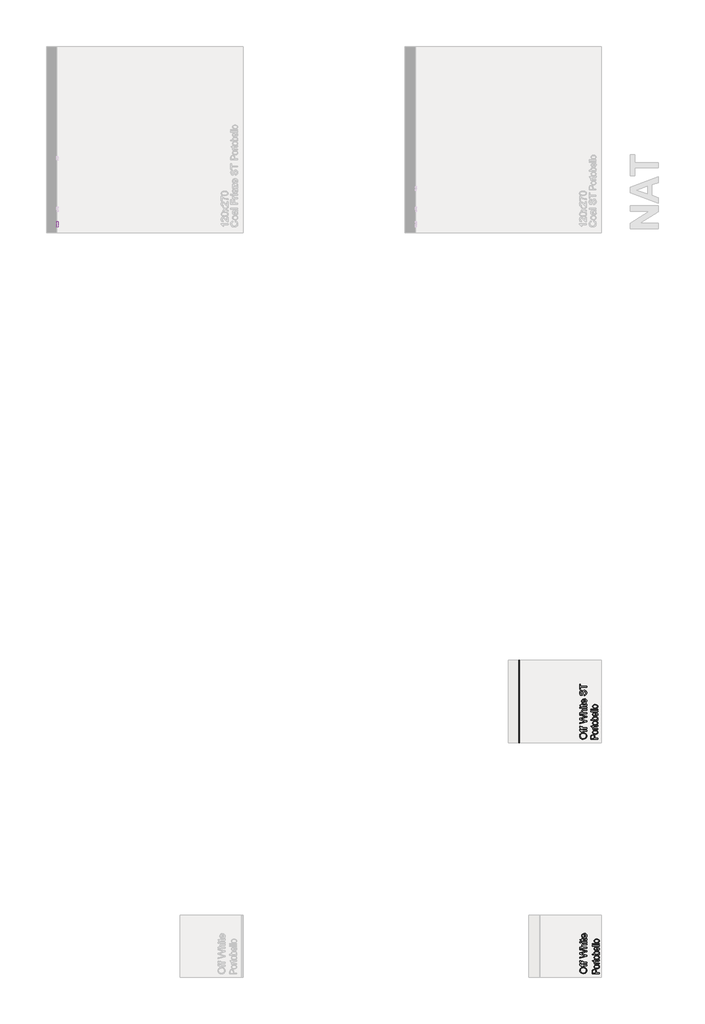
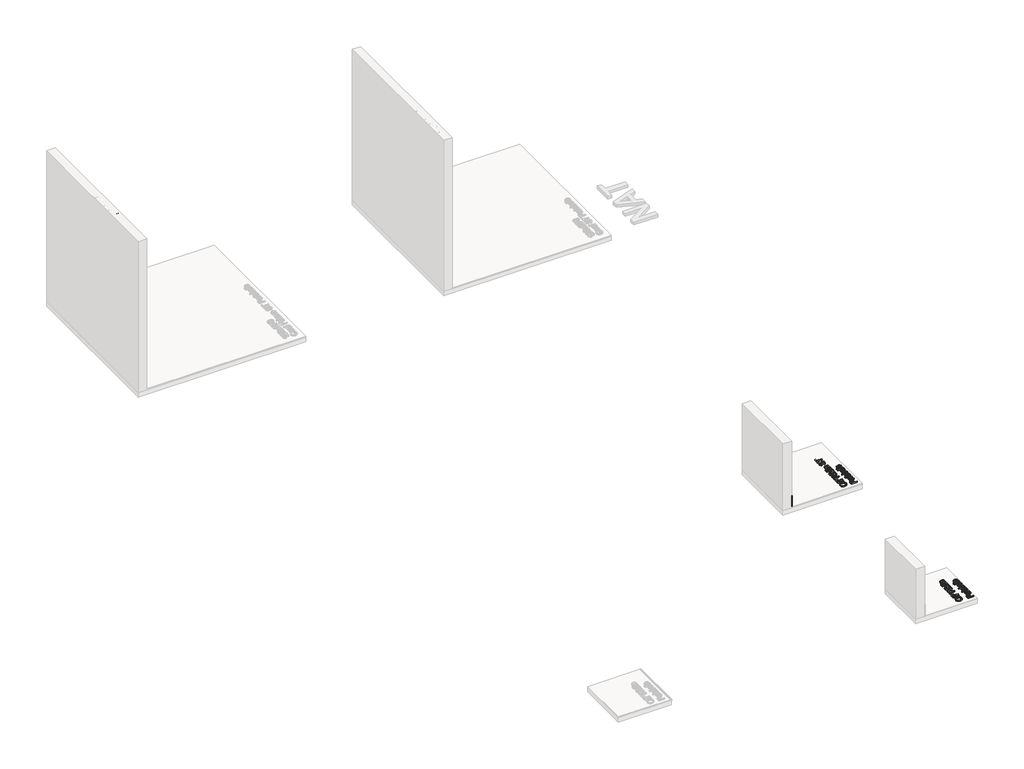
# One storey, part 16 of 19: 6 proxies.
"""IFC4 building model written with IfcOpenShell, lengths in millimetres."""

from ifc_helpers import new_model, si_unit, frame, origin, place, context, project, spatial, polyline, outline, extrude, element, save
from ifc_brep_helpers import plane_surface, extruded_surface, spline_curve, advanced_brep

model = new_model("IFC4")

# Units and contexts
model_context = context("Model", 3, world=origin())
ifc_project = project(units=[si_unit("LENGTHUNIT", "METRE", prefix="MILLI")], contexts=[model_context])

# Site, building, storey
site = spatial("IfcSite", under=ifc_project)
building = spatial("IfcBuilding", under=site)
storey = spatial("IfcBuildingStorey", under=building, Name="PORTOBELLO - SHOWROOM", Elevation=0.0)

# Proxies
placement = place(None, origin())
element("IfcBuildingElementProxy", 1, Name="RODAPE KALKS OFF WHITE ST 20X120 NAT RET", ObjectType="RODAPE KALKS OFF WHITE ST 20X120 NAT RET", at=placement, inside=storey, context=model_context, shape_type="AdvancedBrep", body=[
    advanced_brep(
    [(10405.7966975, 18603.6967801, 217.0), (10405.7966975, 18603.6967801, 17.0), (10414.7966975, 18603.6967801, 17.0), (10414.7966975, 18603.6967801, 208.0), (10405.7966975, 19803.6967801, 217.0), (10414.7966975, 19803.6967801, 208.0), (10414.7966975, 19803.6967801, 17.0), (10405.7966975, 19803.6967801, 17.0)],
    [
        (0, 1),
        (1, 2),
        (2, 3),
        (3, 0, spline_curve(3, [(10414.7966975, 18603.6967801, 208.0), (10414.7966975, 18603.6967801, 214.0), (10411.7966975, 18603.6967801, 217.0), (10405.7966975, 18603.6967801, 217.0)], [4, 4], [0.0, 0.029527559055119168])),
        (4, 5, spline_curve(3, [(10405.7966975, 19803.6967801, 217.0), (10411.7966975, 19803.6967801, 217.0), (10414.7966975, 19803.6967801, 214.0), (10414.7966975, 19803.6967801, 208.0)], [4, 4], [0.0, 0.029527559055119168])),
        (5, 6),
        (6, 7),
        (7, 4),
        (0, 4),
        (7, 1),
        (6, 2),
        (5, 3),
    ],
    [
        plane_surface(frame((10205.7966975, 18603.6967801, 17.0), z_axis=(0.0, -1.0, 0.0), x_axis=(0.0, 0.0, 1.0))),
        plane_surface(frame((10205.7966975, 19803.6967801, 17.0), z_axis=(0.0, 1.0, 0.0), x_axis=(0.0, 0.0, 1.0))),
        plane_surface(frame((10405.7966975, 18603.6967801, 217.0), z_axis=(-1.0, 0.0, 0.0), x_axis=(0.0, 1.0, 0.0))),
        plane_surface(frame((10405.7966975, 18603.6967801, 17.0), z_axis=(0.0, 0.0, -1.0), x_axis=(0.0, 1.0, 0.0))),
        plane_surface(frame((10414.7966975, 18603.6967801, 17.0), z_axis=(1.0, 0.0, 0.0), x_axis=(0.0, 1.0, 0.0))),
        extruded_surface(spline_curve(3, [(10414.7966975, 19803.6967801, 208.0), (10414.7966975, 19803.6967801, 214.0), (10411.7966975, 19803.6967801, 217.0), (10405.7966975, 19803.6967801, 217.0)], [4, 4], [0.0, 0.029527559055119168]), (0.0, -1200.0, 0.0), 1200.0),
    ],
    [
        (0, [[1, 2, 3, 4]]),
        (1, [[5, 6, 7, 8]]),
        (2, [[-1, 9, -8, 10]]),
        (3, [[-2, -10, -7, 11]]),
        (4, [[-3, -11, -6, 12]]),
        (5, [[-4, -12, -5, -9]]),
    ],
),
])
element("IfcBuildingElementProxy", 2, Name="10mm Arial", ObjectType="10mm Arial", at=placement, inside=storey, context=model_context, shape_type="SweptSolid", body=[
    extrude(outline(polyline([(26157.6221127, 2551.8986693), (26170.1791514, 2548.6613078), (26164.38501, 2534.0288014), (26155.2921934, 2523.3387638), (26143.3482912, 2516.7996613), (26129.0008934, 2514.6199605), (26114.4358321, 2516.2692981), (26102.869009, 2521.2173109), (26094.003053, 2529.2923207), (26087.5405926, 2540.3226492), (26082.27988, 2567.1780349), (26083.7667364, 2581.8258696), (26088.2273056, 2594.4748789), (26095.4285957, 2604.7234582), (26105.1376147, 2612.1700029), (26116.6523211, 2616.7041485), (26129.2706736, 2618.2155303), (26143.0386572, 2616.2596244), (26154.4215393, 2610.3919066), (26163.0637005, 2600.9741275), (26168.6095216, 2588.3680378), (26156.0524828, 2585.3759309), (26145.7517869, 2600.814712), (26128.7801642, 2605.6584916), (26109.1352657, 2600.2874144), (26098.0374922, 2585.8664402), (26094.8369188, 2567.2025603), (26098.6261034, 2545.571099), (26110.4228527, 2531.7509987), (26127.7500947, 2527.1769993), (26138.2316658, 2528.7343664), (26146.9657975, 2533.4064677), (26153.5600823, 2541.1442523), (26157.6221127, 2551.8986693)])), frame((3705.7966975, 0.0, 0.0), z_axis=(1.0, 0.0, 0.0), x_axis=(0.0, 1.0, 0.0)), (0.0, 0.0, 1.0), 20.0),
    extrude(outline(polyline([(26182.7361902, 2553.0758917), (26185.4523856, 2570.8629862), (26193.6009718, 2583.3648427), (26203.6686757, 2589.4900779), (26215.7229424, 2591.531823), (26228.9145776, 2589.0455538), (26239.4513311, 2581.5867464), (26246.3583156, 2569.7440118), (26248.6606437, 2554.1059613), (26244.5894163, 2531.7632615), (26232.7313533, 2519.1203836), (26215.7229424, 2514.6199605), (26202.3718917, 2517.0970326), (26191.8474009, 2524.5282489), (26185.0139929, 2536.6193038), (26182.7361902, 2553.0758917)]), holes=[polyline([(26195.293229, 2553.1004172), (26196.7463628, 2541.7359292), (26201.1057645, 2533.6394596), (26207.6663267, 2528.7926144), (26215.7229424, 2527.1769993), (26223.7427699, 2528.8018114), (26230.2910694, 2533.6762478), (26234.6504711, 2541.8800163), (26236.103605, 2553.4928247), (26234.641274, 2564.5262188), (26230.2542812, 2572.5123238), (26223.6967847, 2577.3591691), (26215.7229424, 2578.9747842), (26207.6663267, 2577.3653005), (26201.1057645, 2572.5368493), (26196.7463628, 2564.4587738), (26195.293229, 2553.1004172)])]), frame((3705.7966975, 0.0, 0.0), z_axis=(1.0, 0.0, 0.0), x_axis=(0.0, 1.0, 0.0)), (0.0, 0.0, 1.0), 20.0),
    extrude(outline(polyline([(26309.8762077, 2525.6073694), (26297.6993137, 2517.0970326), (26284.2470954, 2514.6199605), (26273.7532615, 2516.1098826), (26266.0124112, 2520.5796488), (26261.2391423, 2527.3670716), (26259.6480527, 2535.8099634), (26262.0515484, 2545.7427773), (26268.3668559, 2552.9532644), (26277.1592356, 2557.0735427), (26288.0240172, 2558.9620036), (26309.8026313, 2563.2784857), (26309.8762077, 2566.0743889), (26306.418117, 2575.3450152), (26292.536703, 2578.9747842), (26279.8325115, 2576.5590258), (26273.7747213, 2567.9873753), (26261.2176825, 2569.5570051), (26266.6500733, 2581.8197383), (26277.5884313, 2589.0056999), (26294.1553838, 2591.531823), (26309.3734357, 2589.3000055), (26317.9696116, 2583.6959365), (26321.8201098, 2575.1733369), (26322.4332465, 2564.185928), (26322.4332465, 2548.5632059), (26323.0709086, 2526.7478036), (26325.5725062, 2516.1895903), (26313.0154674, 2516.1895903), (26309.8762077, 2525.6073694)]), holes=[polyline([(26309.8762077, 2550.721447), (26289.6181725, 2546.8709487), (26278.8147046, 2544.835335), (26273.9218741, 2541.5243971), (26272.2050914, 2536.6928802), (26275.945225, 2529.899326), (26286.9203712, 2527.1769993), (26299.6245628, 2530.1813689), (26307.8160686, 2537.4531697), (26309.8026313, 2547.1652543), (26309.8762077, 2550.721447)])]), frame((3705.7966975, 0.0, 0.0), z_axis=(1.0, 0.0, 0.0), x_axis=(0.0, 1.0, 0.0)), (0.0, 0.0, 1.0), 20.0),
    extrude(outline(polyline([(3725.7966975, 26352.2562136), (3725.7966975, 26339.6991748), (3705.7966975, 26339.6991748), (3705.7966975, 26352.2562136), (3725.7966975, 26352.2562136)])), frame((0.0, 0.0, 2516.1895903), z_axis=(0.0, 0.0, 1.0), x_axis=(1.0, 0.0, 0.0)), (0.0, 0.0, 1.0), 100.4563101),
    extrude(outline(polyline([(26411.9021477, 2516.1895903), (26411.9021477, 2616.6459005), (26479.3962311, 2616.6459005), (26479.3962311, 2604.0888617), (26424.4591865, 2604.0888617), (26424.4591865, 2574.2658946), (26471.5480819, 2574.2658946), (26471.5480819, 2561.7088559), (26424.4591865, 2561.7088559), (26424.4591865, 2516.1895903), (26411.9021477, 2516.1895903)])), frame((3705.7966975, 0.0, 0.0), z_axis=(1.0, 0.0, 0.0), x_axis=(0.0, 1.0, 0.0)), (0.0, 0.0, 1.0), 20.0),
    extrude(outline(polyline([(26495.0925296, 2516.1895903), (26495.0925296, 2589.9621931), (26506.0799385, 2589.9621931), (26506.0799385, 2579.0483606), (26513.8790368, 2589.1038018), (26521.727186, 2591.531823), (26534.3332757, 2587.6567993), (26530.139421, 2576.3996102), (26521.3102531, 2578.9747842), (26514.2101306, 2576.4977121), (26509.685182, 2569.6305815), (26507.6495683, 2554.9643526), (26507.6495683, 2516.1895903), (26495.0925296, 2516.1895903)])), frame((3705.7966975, 0.0, 0.0), z_axis=(1.0, 0.0, 0.0), x_axis=(0.0, 1.0, 0.0)), (0.0, 0.0, 1.0), 20.0),
    extrude(outline(polyline([(3725.7966975, 26554.7384637), (3725.7966975, 26542.181425), (3705.7966975, 26542.181425), (3705.7966975, 26554.7384637), (3725.7966975, 26554.7384637)])), frame((0.0, 0.0, 2516.1895903), z_axis=(0.0, 0.0, 1.0), x_axis=(1.0, 0.0, 0.0)), (0.0, 0.0, 1.0), 73.7726028),
    extrude(outline(polyline([(3725.7966975, 26554.7384637), (3725.7966975, 26542.181425), (3705.7966975, 26542.181425), (3705.7966975, 26554.7384637), (3725.7966975, 26554.7384637)])), frame((0.0, 0.0, 2604.0888617), z_axis=(0.0, 0.0, 1.0), x_axis=(1.0, 0.0, 0.0)), (0.0, 0.0, 1.0), 12.5570388),
    extrude(outline(polyline([(26625.224654, 2538.1644082), (26637.5364381, 2536.5947783), (26633.1003944, 2527.3180207), (26626.0217317, 2520.3834451), (26616.4598655, 2516.0608316), (26604.5742113, 2514.6199605), (26589.8405374, 2517.1062296), (26578.5036406, 2524.5650371), (26571.2747594, 2536.5120049), (26568.8651323, 2552.4627551), (26571.2992849, 2568.9499998), (26578.6017425, 2581.280178), (26589.7853551, 2588.9689117), (26603.8629728, 2591.531823), (26617.5021978, 2588.9750431), (26628.4007019, 2581.3047035), (26635.5468096, 2568.9990508), (26637.9288456, 2552.5363315), (26637.8552692, 2549.1518171), (26581.4221711, 2549.1518171), (26583.5957406, 2539.7524321), (26588.6449209, 2532.842382), (26595.9320501, 2528.5933449), (26604.819466, 2527.1769993), (26617.1312501, 2529.8012242), (26625.224654, 2538.1644082)]), holes=[polyline([(26581.4221711, 2561.7088559), (26625.3718068, 2561.7088559), (26620.3440862, 2573.0886723), (26613.0232345, 2577.5032562), (26603.8139219, 2578.9747842), (26588.3506153, 2574.2781574), (26583.485376, 2568.7875186), (26581.4221711, 2561.7088559)])]), frame((3705.7966975, 0.0, 0.0), z_axis=(1.0, 0.0, 0.0), x_axis=(0.0, 1.0, 0.0)), (0.0, 0.0, 1.0), 20.0),
    extrude(outline(polyline([(26642.6377351, 2516.1895903), (26642.6377351, 2528.0108651), (26685.9742341, 2577.4051543), (26673.1474152, 2577.4051543), (26645.7769948, 2577.4051543), (26645.7769948, 2589.9621931), (26703.8532991, 2589.9621931), (26703.8532991, 2579.2936152), (26665.4218933, 2535.4666069), (26659.5357814, 2528.7466291), (26674.0548575, 2528.7466291), (26705.4229289, 2528.7466291), (26705.4229289, 2516.1895903), (26642.6377351, 2516.1895903)])), frame((3705.7966975, 0.0, 0.0), z_axis=(1.0, 0.0, 0.0), x_axis=(0.0, 1.0, 0.0)), (0.0, 0.0, 1.0), 20.0),
    extrude(outline(polyline([(26769.6305998, 2538.1644082), (26781.9423839, 2536.5947783), (26777.5063402, 2527.3180207), (26770.4276775, 2520.3834451), (26760.8658113, 2516.0608316), (26748.9801572, 2514.6199605), (26734.2464833, 2517.1062296), (26722.9095864, 2524.5650371), (26715.6807052, 2536.5120049), (26713.2710782, 2552.4627551), (26715.7052307, 2568.9499998), (26723.0076883, 2581.280178), (26734.191301, 2588.9689117), (26748.2689187, 2591.531823), (26761.9081436, 2588.9750431), (26772.8066477, 2581.3047035), (26779.9527555, 2568.9990508), (26782.3347914, 2552.5363315), (26782.261215, 2549.1518171), (26725.8281169, 2549.1518171), (26728.0016864, 2539.7524321), (26733.0508668, 2532.842382), (26740.337996, 2528.5933449), (26749.2254118, 2527.1769993), (26761.5371959, 2529.8012242), (26769.6305998, 2538.1644082)]), holes=[polyline([(26725.8281169, 2561.7088559), (26769.7777526, 2561.7088559), (26764.750032, 2573.0886723), (26757.4291803, 2577.5032562), (26748.2198677, 2578.9747842), (26732.7565612, 2574.2781574), (26727.8913218, 2568.7875186), (26725.8281169, 2561.7088559)])]), frame((3705.7966975, 0.0, 0.0), z_axis=(1.0, 0.0, 0.0), x_axis=(0.0, 1.0, 0.0)), (0.0, 0.0, 1.0), 20.0),
    extrude(outline(polyline([(26830.9933166, 2550.721447), (26843.5503554, 2550.721447), (26847.5970573, 2538.1521455), (26857.4808203, 2530.2058944), (26872.5394566, 2527.1769993), (26885.6605811, 2529.4701304), (26894.1341297, 2535.7731752), (26896.9177702, 2544.1976729), (26894.8331055, 2552.0335594), (26886.2982432, 2557.7357303), (26868.0145081, 2562.530459), (26848.3328213, 2568.7231393), (26837.6519807, 2578.0673419), (26834.1325763, 2590.5508043), (26838.4858466, 2604.763312), (26851.2023009, 2614.7942278), (26869.8171299, 2618.2155303), (26889.6827576, 2614.6348123), (26902.9265094, 2604.1133872), (26907.9051791, 2588.3925633), (26895.3481403, 2588.3925633), (26893.0427465, 2595.8850932), (26888.2357551, 2601.2929586), (26870.3076392, 2605.6584916), (26852.3304724, 2601.3420095), (26846.6896151, 2590.9186863), (26850.6872661, 2582.2121457), (26871.190556, 2575.1978624), (26893.4106285, 2568.8948175), (26905.5629971, 2558.716749), (26909.4748089, 2544.516504), (26904.9743859, 2529.4946558), (26892.0249396, 2518.5317724), (26873.0299659, 2514.6199605), (26850.601427, 2518.8383407), (26836.4134447, 2531.5425323), (26830.9933166, 2550.721447)])), frame((3705.7966975, 0.0, 0.0), z_axis=(1.0, 0.0, 0.0), x_axis=(0.0, 1.0, 0.0)), (0.0, 0.0, 1.0), 20.0),
    extrude(outline(polyline([(26953.4244446, 2516.1895903), (26953.4244446, 2604.0888617), (26920.4622179, 2604.0888617), (26920.4622179, 2616.6459005), (26998.9437102, 2616.6459005), (26998.9437102, 2604.0888617), (26965.9814834, 2604.0888617), (26965.9814834, 2516.1895903), (26953.4244446, 2516.1895903)])), frame((3705.7966975, 0.0, 0.0), z_axis=(1.0, 0.0, 0.0), x_axis=(0.0, 1.0, 0.0)), (0.0, 0.0, 1.0), 20.0),
])
element("IfcBuildingElementProxy", 3, Name="10mm Arial", ObjectType="10mm Arial", at=placement, inside=storey, context=model_context, shape_type="SweptSolid", body=[
    extrude(outline(polyline([(11344.1366208, 18657.8639469), (11321.9226796, 18661.211673), (11305.1166038, 18671.2548515), (11294.5399965, 18686.5893993), (11291.0144607, 18705.8112336), (11292.6699296, 18718.9875403), (11297.6363366, 18730.8026838), (11305.5641936, 18740.6128703), (11316.1040127, 18747.7743065), (11328.7468906, 18752.1521022), (11342.9839239, 18753.6113675), (11357.4110294, 18752.0754601), (11370.231717, 18747.4677381), (11380.7899302, 18740.0426532), (11388.429613, 18730.054657), (11393.0649261, 18718.3406812), (11394.6100305, 18705.7376572), (11392.9024449, 18692.3590153), (11387.7796881, 18680.4764268), (11379.7046783, 18670.6907657), (11369.1403337, 18663.602906), (11344.1366208, 18657.8639469)]), holes=[polyline([(11344.2592481, 18670.4209856), (11359.9739407, 18672.9317802), (11371.9484996, 18680.4641641), (11379.5268687, 18691.7857325), (11382.0529917, 18705.6640808), (11379.5023432, 18719.7447641), (11371.8503977, 18731.0847266), (11359.5079568, 18738.5619282), (11342.885822, 18741.0543287), (11322.1618029, 18736.7868975), (11308.4398045, 18724.3156979), (11303.5714994, 18705.88481), (11305.9167472, 18692.3774094), (11312.9524903, 18680.8933597), (11325.4696752, 18673.0390792), (11344.2592481, 18670.4209856)])]), frame((0.0, 0.0, 18.0), z_axis=(0.0, 0.0, 1.0), x_axis=(1.0, 0.0, 0.0)), (0.0, 0.0, 1.0), 20.0),
    extrude(outline(polyline([(11393.0404007, 18813.2573016), (11331.8248367, 18813.2573016), (11331.8248367, 18802.2698927), (11319.2677979, 18802.2698927), (11319.2677979, 18813.2573016), (11311.8365816, 18813.2573016), (11301.3642075, 18814.5816768), (11293.8839402, 18821.007349), (11291.0144607, 18833.6624896), (11292.3878868, 18845.1158824), (11304.1601106, 18843.2764724), (11303.5714994, 18836.0414598), (11305.6561641, 18828.131997), (11313.4307369, 18825.8143404), (11319.2677979, 18825.8143404), (11319.2677979, 18839.941009), (11331.8248367, 18839.941009), (11331.8248367, 18825.8143404), (11393.0404007, 18825.8143404), (11393.0404007, 18813.2573016)])), frame((0.0, 0.0, 18.0), z_axis=(0.0, 0.0, 1.0), x_axis=(1.0, 0.0, 0.0)), (0.0, 0.0, 1.0), 20.0),
    extrude(outline(polyline([(11393.0404007, 18772.4469256), (11331.8248367, 18772.4469256), (11331.8248367, 18761.4595167), (11319.2677979, 18761.4595167), (11319.2677979, 18772.4469256), (11311.8365816, 18772.4469256), (11301.3642075, 18773.7713008), (11293.8839402, 18780.196973), (11291.0144607, 18792.8521136), (11292.3878868, 18804.3055064), (11304.1601106, 18802.4660964), (11303.5714994, 18795.2310838), (11305.6561641, 18787.321621), (11313.4307369, 18785.0039644), (11319.2677979, 18785.0039644), (11319.2677979, 18799.130633), (11331.8248367, 18799.130633), (11331.8248367, 18785.0039644), (11393.0404007, 18785.0039644), (11393.0404007, 18772.4469256)])), frame((0.0, 0.0, 18.0), z_axis=(0.0, 0.0, 1.0), x_axis=(1.0, 0.0, 0.0)), (0.0, 0.0, 1.0), 20.0),
    extrude(outline(polyline([(11393.0404007, 18909.7159607), (11292.5840905, 18882.3210148), (11292.5840905, 18895.2704611), (11358.6066459, 18911.1629633), (11378.9873084, 18916.0680565), (11360.9610907, 18921.3165063), (11292.5840905, 18941.231185), (11292.5840905, 18959.8950649), (11342.150058, 18974.36509), (11378.9873084, 18985.1317698), (11359.1952571, 18989.8897102), (11292.5840905, 19005.9048398), (11292.5840905, 19018.8788115), (11393.0404007, 18991.508391), (11393.0404007, 18978.0684355), (11315.539927, 18953.959902), (11304.7241964, 18950.5999131), (11317.747219, 18946.8229913), (11393.0404007, 18924.8726989), (11393.0404007, 18909.7159607)])), frame((0.0, 0.0, 18.0), z_axis=(0.0, 0.0, 1.0), x_axis=(1.0, 0.0, 0.0)), (0.0, 0.0, 1.0), 20.0),
    extrude(outline(polyline([(11393.0404007, 19029.8662204), (11292.5840905, 19029.8662204), (11292.5840905, 19042.4232591), (11329.5194428, 19042.4232591), (11320.6534867, 19052.2150516), (11317.6981681, 19064.2754497), (11320.9232669, 19078.3775928), (11329.8382739, 19086.9369806), (11346.3439127, 19089.5121545), (11393.0404007, 19089.5121545), (11393.0404007, 19076.9551158), (11347.6437625, 19076.9551158), (11334.4000106, 19072.9574647), (11330.2552068, 19061.6266993), (11333.05111, 19051.3382662), (11340.6294791, 19044.4711356), (11353.8487054, 19042.4232591), (11393.0404007, 19042.4232591), (11393.0404007, 19029.8662204)])), frame((0.0, 0.0, 18.0), z_axis=(0.0, 0.0, 1.0), x_axis=(1.0, 0.0, 0.0)), (0.0, 0.0, 1.0), 20.0),
    extrude(outline(polyline([(11305.1411293, 19106.7780828), (11292.5840905, 19106.7780828), (11292.5840905, 19119.3351216), (11305.1411293, 19119.3351216), (11305.1411293, 19106.7780828)])), frame((0.0, 0.0, 18.0), z_axis=(0.0, 0.0, 1.0), x_axis=(1.0, 0.0, 0.0)), (0.0, 0.0, 1.0), 20.0),
    extrude(outline(polyline([(11393.0404007, 19106.7780828), (11319.2677979, 19106.7780828), (11319.2677979, 19119.3351216), (11393.0404007, 19119.3351216), (11393.0404007, 19106.7780828)])), frame((0.0, 0.0, 18.0), z_axis=(0.0, 0.0, 1.0), x_axis=(1.0, 0.0, 0.0)), (0.0, 0.0, 1.0), 20.0),
    extrude(outline(polyline([(11382.5680265, 19164.8543871), (11393.4082827, 19166.424017), (11394.6100305, 19157.0307634), (11392.5253659, 19146.5093383), (11387.0561869, 19141.2608885), (11372.8068909, 19139.7403096), (11331.8248367, 19139.7403096), (11331.8248367, 19130.3225305), (11319.2677979, 19130.3225305), (11319.2677979, 19139.7403096), (11301.339682, 19139.7403096), (11293.9575166, 19152.2973484), (11319.2677979, 19152.2973484), (11319.2677979, 19164.8543871), (11331.8248367, 19164.8543871), (11331.8248367, 19152.2973484), (11372.4390089, 19152.2973484), (11378.913732, 19152.959536), (11381.2068632, 19155.1055143), (11382.0529917, 19159.3852081), (11382.5680265, 19164.8543871)])), frame((0.0, 0.0, 18.0), z_axis=(0.0, 0.0, 1.0), x_axis=(1.0, 0.0, 0.0)), (0.0, 0.0, 1.0), 20.0),
    extrude(outline(polyline([(11371.0655828, 19229.062058), (11372.6352127, 19241.3738421), (11381.9119703, 19236.9377984), (11388.8465459, 19229.8591357), (11393.1691594, 19220.2972695), (11394.6100305, 19208.4116154), (11392.1237614, 19193.6779415), (11384.6649539, 19182.3410446), (11372.7179861, 19175.1121634), (11356.7672359, 19172.7025364), (11340.2799912, 19175.1366889), (11327.949813, 19182.4391465), (11320.2610793, 19193.6227592), (11317.6981681, 19207.7003768), (11320.2549479, 19221.3396018), (11327.9252875, 19232.2381059), (11340.2309403, 19239.3842137), (11356.6936595, 19241.7662496), (11360.0781739, 19241.6926732), (11360.0781739, 19185.2595751), (11369.4775589, 19187.4331446), (11376.387609, 19192.482325), (11380.6366461, 19199.7694542), (11382.0529917, 19208.65687), (11379.4287668, 19220.9686541), (11371.0655828, 19229.062058)]), holes=[polyline([(11347.5211351, 19185.2595751), (11347.5211351, 19229.2092108), (11336.1413187, 19224.1814902), (11331.7267348, 19216.8606385), (11330.2552068, 19207.6513259), (11334.9518336, 19192.1880194), (11340.4424724, 19187.32278), (11347.5211351, 19185.2595751)])]), frame((0.0, 0.0, 18.0), z_axis=(0.0, 0.0, 1.0), x_axis=(1.0, 0.0, 0.0)), (0.0, 0.0, 1.0), 20.0),
    extrude(outline(polyline([(11358.508544, 19290.4247748), (11358.508544, 19302.9818136), (11371.0778456, 19307.0285155), (11379.0240966, 19316.9122785), (11382.0529917, 19331.9709148), (11379.7598606, 19345.0920393), (11373.4568158, 19353.5655879), (11365.0323181, 19356.3492284), (11357.1964316, 19354.2645637), (11351.4942607, 19345.7297014), (11346.699532, 19327.4459663), (11340.5068518, 19307.7642795), (11331.1626491, 19297.0834389), (11318.6791867, 19293.5640345), (11304.466679, 19297.9173048), (11294.4357632, 19310.6337591), (11291.0144607, 19329.248588), (11294.5951788, 19349.1142158), (11305.1166038, 19362.3579676), (11320.8374277, 19367.3366373), (11320.8374277, 19354.7795985), (11313.3448978, 19352.4742047), (11307.9370324, 19347.6672133), (11303.5714994, 19329.7390974), (11307.8879815, 19311.7619305), (11318.3113047, 19306.1210733), (11327.0178453, 19310.1187243), (11334.0321286, 19330.6220142), (11340.3351735, 19352.8420867), (11350.513242, 19364.9944552), (11364.713487, 19368.9062671), (11379.7353352, 19364.4058441), (11390.6982186, 19351.4563978), (11394.6100305, 19332.4614241), (11390.3916503, 19310.0328852), (11377.6874587, 19295.8449029), (11358.508544, 19290.4247748)])), frame((0.0, 0.0, 18.0), z_axis=(0.0, 0.0, 1.0), x_axis=(1.0, 0.0, 0.0)), (0.0, 0.0, 1.0), 20.0),
    extrude(outline(polyline([(11393.0404007, 19412.8559028), (11305.1411293, 19412.8559028), (11305.1411293, 19379.8936761), (11292.5840905, 19379.8936761), (11292.5840905, 19458.3751684), (11305.1411293, 19458.3751684), (11305.1411293, 19425.4129416), (11393.0404007, 19425.4129416), (11393.0404007, 19412.8559028)])), frame((0.0, 0.0, 18.0), z_axis=(0.0, 0.0, 1.0), x_axis=(1.0, 0.0, 0.0)), (0.0, 0.0, 1.0), 20.0),
])
element("IfcBuildingElementProxy", 4, Name="10mm Arial", ObjectType="10mm Arial", at=placement, inside=storey, context=model_context, shape_type="SweptSolid", body=[
    extrude(outline(polyline([(11346.8929176, 15257.8639469), (11324.6789764, 15261.211673), (11307.8729006, 15271.2548515), (11297.2962932, 15286.5893993), (11293.7707575, 15305.8112336), (11295.4262264, 15318.9875403), (11300.3926334, 15330.8026838), (11308.3204904, 15340.6128703), (11318.8603095, 15347.7743065), (11331.5031874, 15352.1521022), (11345.7402206, 15353.6113675), (11360.1673262, 15352.0754601), (11372.9880138, 15347.4677381), (11383.546227, 15340.0426532), (11391.1859098, 15330.054657), (11395.8212229, 15318.3406812), (11397.3663273, 15305.7376572), (11395.6587417, 15292.3590153), (11390.5359849, 15280.4764268), (11382.4609751, 15270.6907657), (11371.8966305, 15263.602906), (11346.8929176, 15257.8639469)]), holes=[polyline([(11347.0155449, 15270.4209856), (11362.7302375, 15272.9317802), (11374.7047964, 15280.4641641), (11382.2831655, 15291.7857325), (11384.8092885, 15305.6640808), (11382.25864, 15319.7447641), (11374.6066945, 15331.0847266), (11362.2642536, 15338.5619282), (11345.6421188, 15341.0543287), (11324.9180997, 15336.7868975), (11311.1961013, 15324.3156979), (11306.3277962, 15305.88481), (11308.6730439, 15292.3774094), (11315.7087871, 15280.8933597), (11328.225972, 15273.0390792), (11347.0155449, 15270.4209856)])]), frame((0.0, 0.0, 17.0), z_axis=(0.0, 0.0, 1.0), x_axis=(1.0, 0.0, 0.0)), (0.0, 0.0, 1.0), 20.0),
    extrude(outline(polyline([(11395.7966975, 15413.2573016), (11334.5811335, 15413.2573016), (11334.5811335, 15402.2698927), (11322.0240947, 15402.2698927), (11322.0240947, 15413.2573016), (11314.5928784, 15413.2573016), (11304.1205043, 15414.5816768), (11296.640237, 15421.007349), (11293.7707575, 15433.6624896), (11295.1441836, 15445.1158824), (11306.9164074, 15443.2764724), (11306.3277962, 15436.0414598), (11308.4124609, 15428.131997), (11316.1870337, 15425.8143404), (11322.0240947, 15425.8143404), (11322.0240947, 15439.941009), (11334.5811335, 15439.941009), (11334.5811335, 15425.8143404), (11395.7966975, 15425.8143404), (11395.7966975, 15413.2573016)])), frame((0.0, 0.0, 17.0), z_axis=(0.0, 0.0, 1.0), x_axis=(1.0, 0.0, 0.0)), (0.0, 0.0, 1.0), 20.0),
    extrude(outline(polyline([(11395.7966975, 15372.4469256), (11334.5811335, 15372.4469256), (11334.5811335, 15361.4595167), (11322.0240947, 15361.4595167), (11322.0240947, 15372.4469256), (11314.5928784, 15372.4469256), (11304.1205043, 15373.7713008), (11296.640237, 15380.196973), (11293.7707575, 15392.8521136), (11295.1441836, 15404.3055064), (11306.9164074, 15402.4660964), (11306.3277962, 15395.2310838), (11308.4124609, 15387.321621), (11316.1870337, 15385.0039644), (11322.0240947, 15385.0039644), (11322.0240947, 15399.130633), (11334.5811335, 15399.130633), (11334.5811335, 15385.0039644), (11395.7966975, 15385.0039644), (11395.7966975, 15372.4469256)])), frame((0.0, 0.0, 17.0), z_axis=(0.0, 0.0, 1.0), x_axis=(1.0, 0.0, 0.0)), (0.0, 0.0, 1.0), 20.0),
    extrude(outline(polyline([(11395.7966975, 15509.7159607), (11295.3403873, 15482.3210148), (11295.3403873, 15495.2704611), (11361.3629427, 15511.1629633), (11381.7436052, 15516.0680565), (11363.7173875, 15521.3165063), (11295.3403873, 15541.231185), (11295.3403873, 15559.8950649), (11344.9063548, 15574.36509), (11381.7436052, 15585.1317698), (11361.9515539, 15589.8897102), (11295.3403873, 15605.9048398), (11295.3403873, 15618.8788115), (11395.7966975, 15591.508391), (11395.7966975, 15578.0684355), (11318.2962238, 15553.959902), (11307.4804931, 15550.5999131), (11320.5035158, 15546.8229913), (11395.7966975, 15524.8726989), (11395.7966975, 15509.7159607)])), frame((0.0, 0.0, 17.0), z_axis=(0.0, 0.0, 1.0), x_axis=(1.0, 0.0, 0.0)), (0.0, 0.0, 1.0), 20.0),
    extrude(outline(polyline([(11395.7966975, 15629.8662204), (11295.3403873, 15629.8662204), (11295.3403873, 15642.4232591), (11332.2757396, 15642.4232591), (11323.4097835, 15652.2150516), (11320.4544648, 15664.2754497), (11323.6795637, 15678.3775928), (11332.5945707, 15686.9369806), (11349.1002095, 15689.5121545), (11395.7966975, 15689.5121545), (11395.7966975, 15676.9551158), (11350.4000592, 15676.9551158), (11337.1563074, 15672.9574647), (11333.0115036, 15661.6266993), (11335.8074068, 15651.3382662), (11343.3857759, 15644.4711356), (11356.6050022, 15642.4232591), (11395.7966975, 15642.4232591), (11395.7966975, 15629.8662204)])), frame((0.0, 0.0, 17.0), z_axis=(0.0, 0.0, 1.0), x_axis=(1.0, 0.0, 0.0)), (0.0, 0.0, 1.0), 20.0),
    extrude(outline(polyline([(11307.8974261, 15706.7780828), (11295.3403873, 15706.7780828), (11295.3403873, 15719.3351216), (11307.8974261, 15719.3351216), (11307.8974261, 15706.7780828)])), frame((0.0, 0.0, 17.0), z_axis=(0.0, 0.0, 1.0), x_axis=(1.0, 0.0, 0.0)), (0.0, 0.0, 1.0), 20.0),
    extrude(outline(polyline([(11395.7966975, 15706.7780828), (11322.0240947, 15706.7780828), (11322.0240947, 15719.3351216), (11395.7966975, 15719.3351216), (11395.7966975, 15706.7780828)])), frame((0.0, 0.0, 17.0), z_axis=(0.0, 0.0, 1.0), x_axis=(1.0, 0.0, 0.0)), (0.0, 0.0, 1.0), 20.0),
    extrude(outline(polyline([(11385.3243233, 15764.8543871), (11396.1645794, 15766.424017), (11397.3663273, 15757.0307634), (11395.2816627, 15746.5093383), (11389.8124837, 15741.2608885), (11375.5631877, 15739.7403096), (11334.5811335, 15739.7403096), (11334.5811335, 15730.3225305), (11322.0240947, 15730.3225305), (11322.0240947, 15739.7403096), (11304.0959788, 15739.7403096), (11296.7138134, 15752.2973484), (11322.0240947, 15752.2973484), (11322.0240947, 15764.8543871), (11334.5811335, 15764.8543871), (11334.5811335, 15752.2973484), (11375.1953057, 15752.2973484), (11381.6700288, 15752.959536), (11383.9631599, 15755.1055143), (11384.8092885, 15759.3852081), (11385.3243233, 15764.8543871)])), frame((0.0, 0.0, 17.0), z_axis=(0.0, 0.0, 1.0), x_axis=(1.0, 0.0, 0.0)), (0.0, 0.0, 1.0), 20.0),
    extrude(outline(polyline([(11373.8218796, 15829.062058), (11375.3915095, 15841.3738421), (11384.6682671, 15836.9377984), (11391.6028427, 15829.8591357), (11395.9254562, 15820.2972695), (11397.3663273, 15808.4116154), (11394.8800581, 15793.6779415), (11387.4212507, 15782.3410446), (11375.4742829, 15775.1121634), (11359.5235327, 15772.7025364), (11343.036288, 15775.1366889), (11330.7061098, 15782.4391465), (11323.0173761, 15793.6227592), (11320.4544648, 15807.7003768), (11323.0112447, 15821.3396018), (11330.6815843, 15832.2381059), (11342.987237, 15839.3842137), (11359.4499563, 15841.7662496), (11362.8344707, 15841.6926732), (11362.8344707, 15785.2595751), (11372.2338557, 15787.4331446), (11379.1439058, 15792.482325), (11383.3929428, 15799.7694542), (11384.8092885, 15808.65687), (11382.1850636, 15820.9686541), (11373.8218796, 15829.062058)]), holes=[polyline([(11350.2774319, 15785.2595751), (11350.2774319, 15829.2092108), (11338.8976155, 15824.1814902), (11334.4830316, 15816.8606385), (11333.0115036, 15807.6513259), (11337.7081304, 15792.1880194), (11343.1987692, 15787.32278), (11350.2774319, 15785.2595751)])]), frame((0.0, 0.0, 17.0), z_axis=(0.0, 0.0, 1.0), x_axis=(1.0, 0.0, 0.0)), (0.0, 0.0, 1.0), 20.0),
])
element("IfcBuildingElementProxy", 5, Name="10mm Arial Narrow", ObjectType="10mm Arial Narrow", at=placement, inside=storey, context=model_context, shape_type="SweptSolid", body=[
    extrude(outline(polyline([(11553.0404007, 18659.7078955), (11452.3217969, 18659.7078955), (11452.3217969, 18691.0047802), (11454.2001176, 18707.3004817), (11463.6805608, 18718.7734678), (11480.6996696, 18723.0631463), (11492.7754952, 18721.2768379), (11502.4018889, 18715.9179127), (11508.7031474, 18706.1741238), (11510.8035668, 18691.2332246), (11510.8035668, 18669.4548572), (11553.0404007, 18669.4548572), (11553.0404007, 18659.7078955)]), holes=[polyline([(11499.4321116, 18669.4548572), (11499.4321116, 18692.4262121), (11494.9012974, 18708.2904075), (11481.2327066, 18713.3161846), (11471.0669302, 18710.8413701), (11465.2669804, 18704.8637413), (11463.6932522, 18692.1977677), (11463.6932522, 18669.4548572), (11499.4321116, 18669.4548572)])]), frame((0.0, 0.0, 18.0), z_axis=(0.0, 0.0, 1.0), x_axis=(1.0, 0.0, 0.0)), (0.0, 0.0, 1.0), 20.0),
    extrude(outline(polyline([(11516.4892945, 18731.1856143), (11499.8985189, 18733.1400832), (11487.9464341, 18739.0034898), (11480.7218795, 18747.8620565), (11478.3136947, 18758.8020057), (11480.7218795, 18769.6150412), (11487.9464341, 18778.4989907), (11499.7081486, 18784.4385454), (11515.7278131, 18786.418397), (11532.8896997, 18784.4734466), (11545.0321548, 18778.6385956), (11552.2567094, 18769.7895474), (11554.6648943, 18758.8020057), (11552.2503637, 18747.9413775), (11545.0067721, 18739.0669466), (11533.0483416, 18733.1559474), (11516.4892945, 18731.1856143)]), holes=[polyline([(11516.4639118, 18740.932576), (11529.0156632, 18742.2366128), (11537.8869212, 18746.1487234), (11543.1601798, 18751.9899201), (11544.9179326, 18759.0812155), (11543.1443156, 18765.8012887), (11537.8234644, 18771.493362), (11528.9363422, 18775.376917), (11516.4639118, 18776.6714354), (11503.9502344, 18775.3673985), (11495.0916677, 18771.4552879), (11489.8184092, 18765.6140912), (11488.0606563, 18758.5227958), (11489.8279277, 18751.7551301), (11495.1297418, 18746.0725753), (11503.997827, 18742.2175758), (11516.4639118, 18740.932576)])]), frame((0.0, 0.0, 18.0), z_axis=(0.0, 0.0, 1.0), x_axis=(1.0, 0.0, 0.0)), (0.0, 0.0, 1.0), 20.0),
    extrude(outline(polyline([(11544.9179326, 18857.8961158), (11554.6648943, 18859.5206094), (11554.6648943, 18852.1596227), (11552.5454378, 18843.8848584), (11546.7454879, 18839.5697973), (11532.0996627, 18838.4021925), (11489.6851499, 18838.4021925), (11489.6851499, 18830.2797244), (11486.4361627, 18830.2797244), (11491.3096435, 18828.6552308), (11489.6851499, 18821.0911825), (11492.0076681, 18815.0120228), (11498.4929512, 18811.1411591), (11513.9002578, 18809.1613075), (11553.0404007, 18809.1613075), (11553.0404007, 18799.4143459), (11479.9381883, 18799.4143459), (11479.9381883, 18809.1613075), (11489.6343845, 18809.1613075), (11480.5473734, 18815.4054548), (11478.3136947, 18821.8018984), (11479.9381883, 18830.2797244), (11479.9381883, 18838.4021925), (11463.6932522, 18838.4021925), (11455.5707841, 18848.1491541), (11479.9381883, 18848.1491541), (11479.9381883, 18857.8961158), (11489.6851499, 18857.8961158), (11489.6851499, 18848.1491541), (11534.3333414, 18848.1491541), (11542.3288959, 18849.0121664), (11544.9179326, 18853.6318201), (11544.9179326, 18857.8961158)])), frame((0.0, 0.0, 18.0), z_axis=(0.0, 0.0, 1.0), x_axis=(1.0, 0.0, 0.0)), (0.0, 0.0, 1.0), 20.0),
    extrude(outline(polyline([(11516.4892945, 18864.3940902), (11499.8985189, 18866.3485591), (11487.9464341, 18872.2119657), (11480.7218795, 18881.0705324), (11478.3136947, 18892.0104816), (11480.7218795, 18902.8235172), (11487.9464341, 18911.7074666), (11499.7081486, 18917.6470214), (11515.7278131, 18919.6268729), (11532.8896997, 18917.6819226), (11545.0321548, 18911.8470715), (11552.2567094, 18902.9980233), (11554.6648943, 18892.0104816), (11552.2503637, 18881.1498534), (11545.0067721, 18872.2754225), (11533.0483416, 18866.3644233), (11516.4892945, 18864.3940902)]), holes=[polyline([(11516.4639118, 18874.1410519), (11529.0156632, 18875.4450887), (11537.8869212, 18879.3571993), (11543.1601798, 18885.1983961), (11544.9179326, 18892.2896914), (11543.1443156, 18899.0097646), (11537.8234644, 18904.7018379), (11528.9363422, 18908.5853929), (11516.4639118, 18909.8799113), (11503.9502344, 18908.5758744), (11495.0916677, 18904.6637638), (11489.8184092, 18898.8225671), (11488.0606563, 18891.7312717), (11489.8279277, 18884.963606), (11495.1297418, 18879.2810512), (11503.997827, 18875.4260517), (11516.4639118, 18874.1410519)])]), frame((0.0, 0.0, 18.0), z_axis=(0.0, 0.0, 1.0), x_axis=(1.0, 0.0, 0.0)), (0.0, 0.0, 1.0), 20.0),
    extrude(outline(polyline([(11553.0404007, 18942.3697835), (11553.0404007, 18932.6228218), (11452.3217969, 18932.6228218), (11452.3217969, 18942.3697835), (11487.730681, 18942.3697835), (11480.6489042, 18949.7688442), (11478.3136947, 18958.9700775), (11482.5145336, 18971.8518042), (11495.243964, 18981.1291857), (11515.9308748, 18984.6066173), (11532.3852183, 18982.6743583), (11544.5879574, 18976.8775813), (11552.14566, 18968.504459), (11554.6648943, 18958.843164), (11552.0504749, 18949.5023257), (11544.2833648, 18942.3697835), (11553.0404007, 18942.3697835)]), holes=[polyline([(11515.9308748, 18942.3697835), (11533.178428, 18944.4511659), (11541.9100812, 18950.3399552), (11544.9179326, 18958.7923985), (11543.1284514, 18964.7351261), (11537.7600077, 18969.9734835), (11516.3369982, 18974.8596556), (11494.9012974, 18970.1511624), (11489.7708166, 18964.9064594), (11488.0606563, 18958.5893368), (11489.8501375, 18952.611708), (11495.2185813, 18947.3194124), (11515.9308748, 18942.3697835)])]), frame((0.0, 0.0, 18.0), z_axis=(0.0, 0.0, 1.0), x_axis=(1.0, 0.0, 0.0)), (0.0, 0.0, 1.0), 20.0),
    extrude(outline(polyline([(11530.2974901, 19036.5904128), (11531.9219837, 19046.3373744), (11541.8085503, 19042.6378441), (11548.9284012, 19036.8188572), (11553.230771, 19029.1152039), (11554.6648943, 19019.7616743), (11552.2503637, 19008.1681203), (11545.0067721, 18999.0239981), (11533.2006379, 18993.0844433), (11517.0984796, 18991.1045917), (11500.4315559, 18993.0939618), (11488.2510267, 18999.0620721), (11480.7980277, 19008.076108), (11478.3136947, 19019.2032546), (11480.712361, 19029.8862038), (11487.90836, 19038.6337211), (11499.6478646, 19044.4685722), (11515.6770477, 19046.4135226), (11518.9260349, 19046.3373744), (11518.9260349, 19000.8515534), (11538.3691928, 19006.8545649), (11543.2807477, 19012.7846012), (11544.9179326, 19019.8885879), (11541.262822, 19030.0670556), (11530.2974901, 19036.5904128)]), holes=[polyline([(11509.1790732, 19001.5115039), (11509.1790732, 19036.5904128), (11494.9139887, 19032.3261171), (11489.7739894, 19026.5007845), (11488.0606563, 19019.2794028), (11493.7717667, 19007.070318), (11509.1790732, 19001.5115039)])]), frame((0.0, 0.0, 18.0), z_axis=(0.0, 0.0, 1.0), x_axis=(1.0, 0.0, 0.0)), (0.0, 0.0, 1.0), 20.0),
    extrude(outline(polyline([(11553.0404007, 19059.3333233), (11452.3217969, 19059.3333233), (11452.3217969, 19069.080285), (11553.0404007, 19069.080285), (11553.0404007, 19059.3333233)])), frame((0.0, 0.0, 18.0), z_axis=(0.0, 0.0, 1.0), x_axis=(1.0, 0.0, 0.0)), (0.0, 0.0, 1.0), 20.0),
    extrude(outline(polyline([(11553.0404007, 19085.325221), (11452.3217969, 19085.325221), (11452.3217969, 19095.0721827), (11553.0404007, 19095.0721827), (11553.0404007, 19085.325221)])), frame((0.0, 0.0, 18.0), z_axis=(0.0, 0.0, 1.0), x_axis=(1.0, 0.0, 0.0)), (0.0, 0.0, 1.0), 20.0),
    extrude(outline(polyline([(11516.4892945, 19106.443638), (11499.8985189, 19108.3981068), (11487.9464341, 19114.2615135), (11480.7218795, 19123.1200802), (11478.3136947, 19134.0600293), (11480.7218795, 19144.8730649), (11487.9464341, 19153.7570143), (11499.7081486, 19159.6965691), (11515.7278131, 19161.6764207), (11532.8896997, 19159.7314703), (11545.0321548, 19153.8966192), (11552.2567094, 19145.047571), (11554.6648943, 19134.0600293), (11552.2503637, 19123.1994011), (11545.0067721, 19114.3249702), (11533.0483416, 19108.413971), (11516.4892945, 19106.443638)]), holes=[polyline([(11516.4639118, 19116.1905996), (11529.0156632, 19117.4946365), (11537.8869212, 19121.4067471), (11543.1601798, 19127.2479438), (11544.9179326, 19134.3392392), (11543.1443156, 19141.0593123), (11537.8234644, 19146.7513856), (11528.9363422, 19150.6349407), (11516.4639118, 19151.929459), (11503.9502344, 19150.6254222), (11495.0916677, 19146.7133116), (11489.8184092, 19140.8721148), (11488.0606563, 19133.7808195), (11489.8279277, 19127.0131537), (11495.1297418, 19121.3305989), (11503.997827, 19117.4755994), (11516.4639118, 19116.1905996)])]), frame((0.0, 0.0, 18.0), z_axis=(0.0, 0.0, 1.0), x_axis=(1.0, 0.0, 0.0)), (0.0, 0.0, 1.0), 20.0),
])
element("IfcBuildingElementProxy", 6, Name="10mm Arial Narrow", ObjectType="10mm Arial Narrow", at=placement, inside=storey, context=model_context, shape_type="SweptSolid", body=[
    extrude(outline(polyline([(11575.7966975, 15259.7078955), (11475.0780937, 15259.7078955), (11475.0780937, 15291.0047802), (11476.9564144, 15307.3004817), (11486.4368576, 15318.7734678), (11503.4559664, 15323.0631463), (11515.531792, 15321.2768379), (11525.1581857, 15315.9179127), (11531.4594442, 15306.1741238), (11533.5598636, 15291.2332246), (11533.5598636, 15269.4548572), (11575.7966975, 15269.4548572), (11575.7966975, 15259.7078955)]), holes=[polyline([(11522.1884084, 15269.4548572), (11522.1884084, 15292.4262121), (11517.6575942, 15308.2904075), (11503.9890034, 15313.3161846), (11493.823227, 15310.8413701), (11488.0232771, 15304.8637413), (11486.449549, 15292.1977677), (11486.449549, 15269.4548572), (11522.1884084, 15269.4548572)])]), frame((0.0, 0.0, 17.0), z_axis=(0.0, 0.0, 1.0), x_axis=(1.0, 0.0, 0.0)), (0.0, 0.0, 1.0), 20.0),
    extrude(outline(polyline([(11539.2455913, 15331.1856143), (11522.6548157, 15333.1400832), (11510.7027309, 15339.0034898), (11503.4781763, 15347.8620565), (11501.0699914, 15358.8020057), (11503.4781763, 15369.6150412), (11510.7027309, 15378.4989907), (11522.4644454, 15384.4385454), (11538.4841099, 15386.418397), (11555.6459965, 15384.4734466), (11567.7884516, 15378.6385956), (11575.0130062, 15369.7895474), (11577.4211911, 15358.8020057), (11575.0066605, 15347.9413775), (11567.7630689, 15339.0669466), (11555.8046384, 15333.1559474), (11539.2455913, 15331.1856143)]), holes=[polyline([(11539.2202085, 15340.932576), (11551.7719599, 15342.2366128), (11560.643218, 15346.1487234), (11565.9164766, 15351.9899201), (11567.6742294, 15359.0812155), (11565.9006124, 15365.8012887), (11560.5797612, 15371.493362), (11551.692639, 15375.376917), (11539.2202085, 15376.6714354), (11526.7065312, 15375.3673985), (11517.8479645, 15371.4552879), (11512.5747059, 15365.6140912), (11510.8169531, 15358.5227958), (11512.5842245, 15351.7551301), (11517.8860386, 15346.0725753), (11526.7541238, 15342.2175758), (11539.2202085, 15340.932576)])]), frame((0.0, 0.0, 17.0), z_axis=(0.0, 0.0, 1.0), x_axis=(1.0, 0.0, 0.0)), (0.0, 0.0, 1.0), 20.0),
    extrude(outline(polyline([(11567.6742294, 15457.8961158), (11577.4211911, 15459.5206094), (11577.4211911, 15452.1596227), (11575.3017346, 15443.8848584), (11569.5017847, 15439.5697973), (11554.8559595, 15438.4021925), (11512.4414467, 15438.4021925), (11512.4414467, 15430.2797244), (11509.1924595, 15430.2797244), (11514.0659403, 15428.6552308), (11512.4414467, 15421.0911825), (11514.7639649, 15415.0120228), (11521.249248, 15411.1411591), (11536.6565546, 15409.1613075), (11575.7966975, 15409.1613075), (11575.7966975, 15399.4143459), (11502.6944851, 15399.4143459), (11502.6944851, 15409.1613075), (11512.3906813, 15409.1613075), (11503.3036702, 15415.4054548), (11501.0699914, 15421.8018984), (11502.6944851, 15430.2797244), (11502.6944851, 15438.4021925), (11486.449549, 15438.4021925), (11478.3270809, 15448.1491541), (11502.6944851, 15448.1491541), (11502.6944851, 15457.8961158), (11512.4414467, 15457.8961158), (11512.4414467, 15448.1491541), (11557.0896382, 15448.1491541), (11565.0851927, 15449.0121664), (11567.6742294, 15453.6318201), (11567.6742294, 15457.8961158)])), frame((0.0, 0.0, 17.0), z_axis=(0.0, 0.0, 1.0), x_axis=(1.0, 0.0, 0.0)), (0.0, 0.0, 1.0), 20.0),
    extrude(outline(polyline([(11539.2455913, 15464.3940902), (11522.6548157, 15466.3485591), (11510.7027309, 15472.2119657), (11503.4781763, 15481.0705324), (11501.0699914, 15492.0104816), (11503.4781763, 15502.8235172), (11510.7027309, 15511.7074666), (11522.4644454, 15517.6470214), (11538.4841099, 15519.6268729), (11555.6459965, 15517.6819226), (11567.7884516, 15511.8470715), (11575.0130062, 15502.9980233), (11577.4211911, 15492.0104816), (11575.0066605, 15481.1498534), (11567.7630689, 15472.2754225), (11555.8046384, 15466.3644233), (11539.2455913, 15464.3940902)]), holes=[polyline([(11539.2202085, 15474.1410519), (11551.7719599, 15475.4450887), (11560.643218, 15479.3571993), (11565.9164766, 15485.1983961), (11567.6742294, 15492.2896914), (11565.9006124, 15499.0097646), (11560.5797612, 15504.7018379), (11551.692639, 15508.5853929), (11539.2202085, 15509.8799113), (11526.7065312, 15508.5758744), (11517.8479645, 15504.6637638), (11512.5747059, 15498.8225671), (11510.8169531, 15491.7312717), (11512.5842245, 15484.963606), (11517.8860386, 15479.2810512), (11526.7541238, 15475.4260517), (11539.2202085, 15474.1410519)])]), frame((0.0, 0.0, 17.0), z_axis=(0.0, 0.0, 1.0), x_axis=(1.0, 0.0, 0.0)), (0.0, 0.0, 1.0), 20.0),
    extrude(outline(polyline([(11575.7966975, 15542.3697835), (11575.7966975, 15532.6228218), (11475.0780937, 15532.6228218), (11475.0780937, 15542.3697835), (11510.4869778, 15542.3697835), (11503.405201, 15549.7688442), (11501.0699914, 15558.9700775), (11505.2708304, 15571.8518042), (11518.0002608, 15581.1291857), (11538.6871716, 15584.6066173), (11555.141515, 15582.6743583), (11567.3442541, 15576.8775813), (11574.9019568, 15568.504459), (11577.4211911, 15558.843164), (11574.8067717, 15549.5023257), (11567.0396616, 15542.3697835), (11575.7966975, 15542.3697835)]), holes=[polyline([(11538.6871716, 15542.3697835), (11555.9347248, 15544.4511659), (11564.666378, 15550.3399552), (11567.6742294, 15558.7923985), (11565.8847482, 15564.7351261), (11560.5163044, 15569.9734835), (11539.093295, 15574.8596556), (11517.6575942, 15570.1511624), (11512.5271134, 15564.9064594), (11510.8169531, 15558.5893368), (11512.6064343, 15552.611708), (11517.9748781, 15547.3194124), (11538.6871716, 15542.3697835)])]), frame((0.0, 0.0, 17.0), z_axis=(0.0, 0.0, 1.0), x_axis=(1.0, 0.0, 0.0)), (0.0, 0.0, 1.0), 20.0),
    extrude(outline(polyline([(11553.0537869, 15636.5904128), (11554.6782805, 15646.3373744), (11564.5648471, 15642.6378441), (11571.684698, 15636.8188572), (11575.9870678, 15629.1152039), (11577.4211911, 15619.7616743), (11575.0066605, 15608.1681203), (11567.7630689, 15599.0239981), (11555.9569347, 15593.0844433), (11539.8547764, 15591.1045917), (11523.1878527, 15593.0939618), (11511.0073234, 15599.0620721), (11503.5543244, 15608.076108), (11501.0699914, 15619.2032546), (11503.4686578, 15629.8862038), (11510.6646568, 15638.6337211), (11522.4041614, 15644.4685722), (11538.4333444, 15646.4135226), (11541.6823317, 15646.3373744), (11541.6823317, 15600.8515534), (11561.1254895, 15606.8545649), (11566.0370444, 15612.7846012), (11567.6742294, 15619.8885879), (11564.0191188, 15630.0670556), (11553.0537869, 15636.5904128)]), holes=[polyline([(11531.93537, 15601.5115039), (11531.93537, 15636.5904128), (11517.6702855, 15632.3261171), (11512.5302862, 15626.5007845), (11510.8169531, 15619.2794028), (11516.5280634, 15607.070318), (11531.93537, 15601.5115039)])]), frame((0.0, 0.0, 17.0), z_axis=(0.0, 0.0, 1.0), x_axis=(1.0, 0.0, 0.0)), (0.0, 0.0, 1.0), 20.0),
    extrude(outline(polyline([(11575.7966975, 15659.3333233), (11475.0780937, 15659.3333233), (11475.0780937, 15669.080285), (11575.7966975, 15669.080285), (11575.7966975, 15659.3333233)])), frame((0.0, 0.0, 17.0), z_axis=(0.0, 0.0, 1.0), x_axis=(1.0, 0.0, 0.0)), (0.0, 0.0, 1.0), 20.0),
    extrude(outline(polyline([(11575.7966975, 15685.325221), (11475.0780937, 15685.325221), (11475.0780937, 15695.0721827), (11575.7966975, 15695.0721827), (11575.7966975, 15685.325221)])), frame((0.0, 0.0, 17.0), z_axis=(0.0, 0.0, 1.0), x_axis=(1.0, 0.0, 0.0)), (0.0, 0.0, 1.0), 20.0),
    extrude(outline(polyline([(11539.2455913, 15706.443638), (11522.6548157, 15708.3981068), (11510.7027309, 15714.2615135), (11503.4781763, 15723.1200802), (11501.0699914, 15734.0600293), (11503.4781763, 15744.8730649), (11510.7027309, 15753.7570143), (11522.4644454, 15759.6965691), (11538.4841099, 15761.6764207), (11555.6459965, 15759.7314703), (11567.7884516, 15753.8966192), (11575.0130062, 15745.047571), (11577.4211911, 15734.0600293), (11575.0066605, 15723.1994011), (11567.7630689, 15714.3249702), (11555.8046384, 15708.413971), (11539.2455913, 15706.443638)]), holes=[polyline([(11539.2202085, 15716.1905996), (11551.7719599, 15717.4946365), (11560.643218, 15721.4067471), (11565.9164766, 15727.2479438), (11567.6742294, 15734.3392392), (11565.9006124, 15741.0593123), (11560.5797612, 15746.7513856), (11551.692639, 15750.6349407), (11539.2202085, 15751.929459), (11526.7065312, 15750.6254222), (11517.8479645, 15746.7133116), (11512.5747059, 15740.8721148), (11510.8169531, 15733.7808195), (11512.5842245, 15727.0131537), (11517.8860386, 15721.3305989), (11526.7541238, 15717.4755994), (11539.2202085, 15716.1905996)])]), frame((0.0, 0.0, 17.0), z_axis=(0.0, 0.0, 1.0), x_axis=(1.0, 0.0, 0.0)), (0.0, 0.0, 1.0), 20.0),
])

save(model, "model.ifc")
